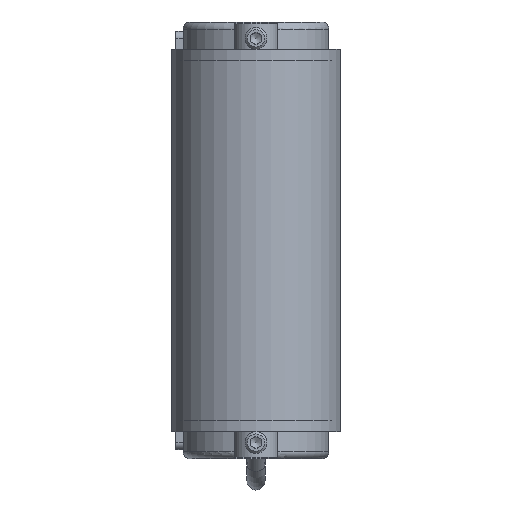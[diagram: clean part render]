
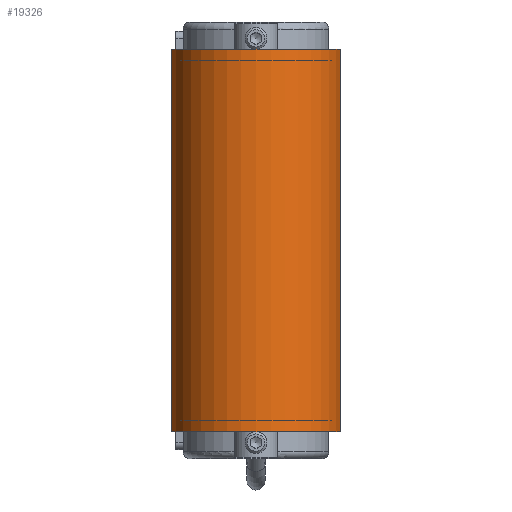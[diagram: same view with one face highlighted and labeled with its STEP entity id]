
A CAD part, front view. The second image highlights one B-rep face of the part: STEP entity #19326.
In plain terms, the highlighted cylindrical face has radius 23.3 mm (diameter 46.6 mm), a partial arc.
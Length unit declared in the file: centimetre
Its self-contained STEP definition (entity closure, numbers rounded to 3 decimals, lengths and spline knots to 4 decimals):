
#555=CYLINDRICAL_SURFACE('',#20656,2.33);
#1179=CIRCLE('',#20651,2.33);
#1182=CIRCLE('',#20657,2.33);
#2000=FACE_OUTER_BOUND('',#3051,.T.);
#3051=EDGE_LOOP('',(#13096,#13097,#13098,#13099));
#4383=LINE('',#28483,#5948);
#4384=LINE('',#28487,#5949);
#5948=VECTOR('',#23300,1.);
#5949=VECTOR('',#23305,1.);
#7679=VERTEX_POINT('',#28466);
#7680=VERTEX_POINT('',#28467);
#7685=VERTEX_POINT('',#28481);
#7686=VERTEX_POINT('',#28485);
#9783=EDGE_CURVE('',#7679,#7680,#1179,.T.);
#9791=EDGE_CURVE('',#7685,#7680,#4383,.T.);
#9792=EDGE_CURVE('',#7685,#7686,#1182,.T.);
#9793=EDGE_CURVE('',#7679,#7686,#4384,.T.);
#13096=ORIENTED_EDGE('',*,*,#9792,.T.);
#13097=ORIENTED_EDGE('',*,*,#9793,.F.);
#13098=ORIENTED_EDGE('',*,*,#9783,.T.);
#13099=ORIENTED_EDGE('',*,*,#9791,.F.);
#19326=ADVANCED_FACE('',(#2000),#555,.T.);
#20651=AXIS2_PLACEMENT_3D('',#28468,#23285,#23286);
#20656=AXIS2_PLACEMENT_3D('',#28484,#23301,#23302);
#20657=AXIS2_PLACEMENT_3D('',#28486,#23303,#23304);
#23285=DIRECTION('center_axis',(0.,0.,
-1.));
#23286=DIRECTION('ref_axis',(-1.,0.,0.));
#23300=DIRECTION('',(0.,0.,1.));
#23301=DIRECTION('center_axis',(0.,0.,
-1.));
#23302=DIRECTION('ref_axis',(-1.,0.,0.));
#23303=DIRECTION('center_axis',(0.,0.,
1.));
#23304=DIRECTION('ref_axis',(-1.,0.,0.));
#23305=DIRECTION('',(0.,0.,-1.));
#28466=CARTESIAN_POINT('',(2.33,-57.,5.25));
#28467=CARTESIAN_POINT('',(-2.33,-57.,5.25));
#28468=CARTESIAN_POINT('Origin',(0.,-57.,5.25));
#28481=CARTESIAN_POINT('',(-2.33,-57.,-5.25));
#28483=CARTESIAN_POINT('',(-2.33,-57.,0.));
#28484=CARTESIAN_POINT('Origin',(0.,-57.,0.));
#28485=CARTESIAN_POINT('',(2.33,-57.,-5.25));
#28486=CARTESIAN_POINT('Origin',(0.,-57.,-5.25));
#28487=CARTESIAN_POINT('',(2.33,-57.,0.));
